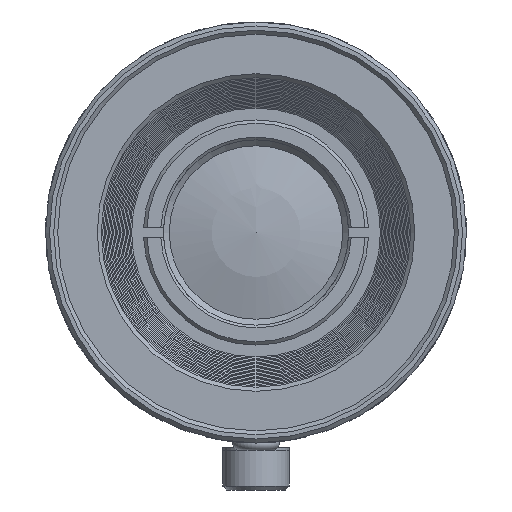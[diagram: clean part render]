
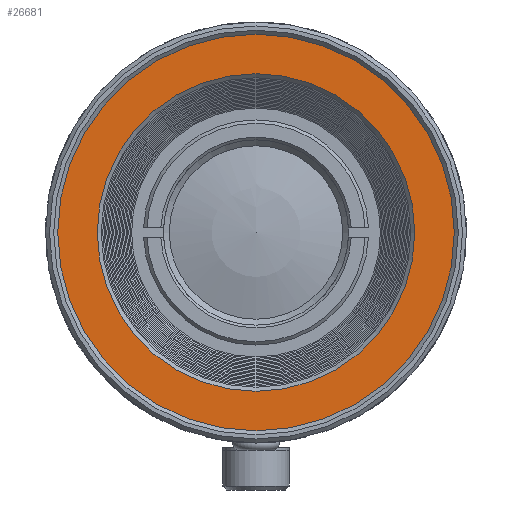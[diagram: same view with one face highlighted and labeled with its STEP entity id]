
A CAD part, front view. The second image highlights one B-rep face of the part: STEP entity #26681.
In plain terms, the highlighted planar face has unit normal (0, -1, 0).
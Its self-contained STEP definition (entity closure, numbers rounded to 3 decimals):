
#6174=ORIENTED_EDGE('',*,*,#10533,.F.);
#6175=ORIENTED_EDGE('',*,*,#10532,.T.);
#10532=EDGE_CURVE('',#12952,#12952,#14334,.T.);
#10533=EDGE_CURVE('',#12953,#12953,#14335,.F.);
#12952=VERTEX_POINT('',#37788);
#12953=VERTEX_POINT('',#37791);
#14334=CIRCLE('',#28155,15.25);
#14335=CIRCLE('',#28157,11.994);
#15377=EDGE_LOOP('',(#6174));
#15378=EDGE_LOOP('',(#6175));
#16786=FACE_BOUND('',#15377,.T.);
#16787=FACE_BOUND('',#15378,.T.);
#17880=PLANE('',#28156);
#26681=ADVANCED_FACE('',(#16786,#16787),#17880,.F.);
#28155=AXIS2_PLACEMENT_3D('',#37787,#31071,#31072);
#28156=AXIS2_PLACEMENT_3D('',#37789,#31073,#31074);
#28157=AXIS2_PLACEMENT_3D('',#37790,#31075,#31076);
#31071=DIRECTION('',(0.,-1.,0.));
#31072=DIRECTION('',(0.,0.,-1.));
#31073=DIRECTION('',(0.,1.,0.));
#31074=DIRECTION('',(0.,0.,1.));
#31075=DIRECTION('',(0.,1.,0.));
#31076=DIRECTION('',(0.,0.,1.));
#37787=CARTESIAN_POINT('',(0.,-60.7,0.));
#37788=CARTESIAN_POINT('',(0.,-60.7,-15.25));
#37789=CARTESIAN_POINT('',(0.,-60.7,11.752));
#37790=CARTESIAN_POINT('',(0.,-60.7,0.));
#37791=CARTESIAN_POINT('',(0.,-60.7,11.994));
